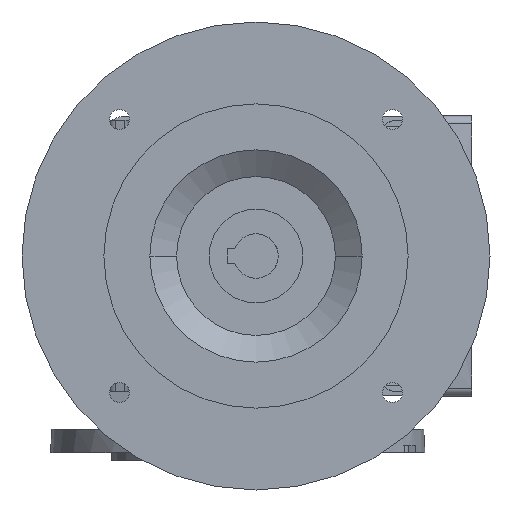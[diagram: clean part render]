
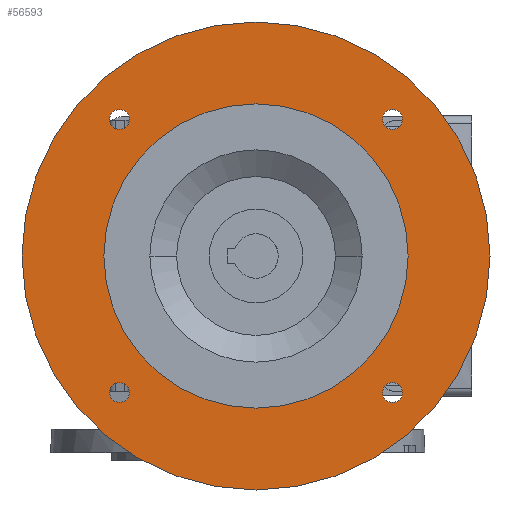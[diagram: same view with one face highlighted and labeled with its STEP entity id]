
A CAD part, left-side view. The second image highlights one B-rep face of the part: STEP entity #56593.
In plain terms, the highlighted planar face has unit normal (-1, 0, 0).
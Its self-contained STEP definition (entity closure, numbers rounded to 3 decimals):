
#56025=CARTESIAN_POINT('',(-124.5,79.,0.));
#56026=DIRECTION('',(1.,0.,0.));
#56027=DIRECTION('',(0.,-1.,0.));
#56028=AXIS2_PLACEMENT_3D('',#56025,#56026,#56027);
#56030=CARTESIAN_POINT('',(-124.5,79.,0.));
#56031=DIRECTION('',(1.,0.,0.));
#56032=DIRECTION('',(0.,1.,0.));
#56033=AXIS2_PLACEMENT_3D('',#56030,#56031,#56032);
#56035=CARTESIAN_POINT('',(-124.5,20.664,-58.336));
#56036=DIRECTION('',(-1.,0.,0.));
#56037=DIRECTION('',(0.,1.,0.));
#56038=AXIS2_PLACEMENT_3D('',#56035,#56036,#56037);
#56040=CARTESIAN_POINT('',(-124.5,20.664,-58.336));
#56041=DIRECTION('',(-1.,0.,0.));
#56042=DIRECTION('',(0.,-1.,0.));
#56043=AXIS2_PLACEMENT_3D('',#56040,#56041,#56042);
#56045=CARTESIAN_POINT('',(-124.5,137.336,-58.336));
#56046=DIRECTION('',(-1.,0.,0.));
#56047=DIRECTION('',(0.,1.,0.));
#56048=AXIS2_PLACEMENT_3D('',#56045,#56046,#56047);
#56050=CARTESIAN_POINT('',(-124.5,137.336,-58.336));
#56051=DIRECTION('',(-1.,0.,0.));
#56052=DIRECTION('',(0.,-1.,0.));
#56053=AXIS2_PLACEMENT_3D('',#56050,#56051,#56052);
#56055=CARTESIAN_POINT('',(-124.5,20.664,58.336));
#56056=DIRECTION('',(-1.,0.,0.));
#56057=DIRECTION('',(0.,1.,0.));
#56058=AXIS2_PLACEMENT_3D('',#56055,#56056,#56057);
#56060=CARTESIAN_POINT('',(-124.5,20.664,58.336));
#56061=DIRECTION('',(-1.,0.,0.));
#56062=DIRECTION('',(0.,-1.,0.));
#56063=AXIS2_PLACEMENT_3D('',#56060,#56061,#56062);
#56065=CARTESIAN_POINT('',(-124.5,137.336,58.336));
#56066=DIRECTION('',(-1.,0.,0.));
#56067=DIRECTION('',(0.,1.,0.));
#56068=AXIS2_PLACEMENT_3D('',#56065,#56066,#56067);
#56070=CARTESIAN_POINT('',(-124.5,137.336,58.336));
#56071=DIRECTION('',(-1.,0.,0.));
#56072=DIRECTION('',(0.,-1.,0.));
#56073=AXIS2_PLACEMENT_3D('',#56070,#56071,#56072);
#56075=CARTESIAN_POINT('',(-124.5,79.,0.));
#56076=DIRECTION('',(-1.,0.,0.));
#56077=DIRECTION('',(0.,-1.,0.));
#56078=AXIS2_PLACEMENT_3D('',#56075,#56076,#56077);
#56080=CARTESIAN_POINT('',(-124.5,79.,0.));
#56081=DIRECTION('',(-1.,0.,0.));
#56082=DIRECTION('',(0.,1.,0.));
#56083=AXIS2_PLACEMENT_3D('',#56080,#56081,#56082);
#56325=CARTESIAN_POINT('',(-124.5,24.914,-58.336));
#56326=CARTESIAN_POINT('',(-124.5,16.414,-58.336));
#56327=VERTEX_POINT('',#56325);
#56328=VERTEX_POINT('',#56326);
#56329=CARTESIAN_POINT('',(-124.5,-21.,0.));
#56330=CARTESIAN_POINT('',(-124.5,179.,0.));
#56331=VERTEX_POINT('',#56329);
#56332=VERTEX_POINT('',#56330);
#56333=CARTESIAN_POINT('',(-124.5,141.586,-58.336));
#56334=CARTESIAN_POINT('',(-124.5,133.086,-58.336));
#56335=VERTEX_POINT('',#56333);
#56336=VERTEX_POINT('',#56334);
#56337=CARTESIAN_POINT('',(-124.5,24.914,58.336));
#56338=CARTESIAN_POINT('',(-124.5,16.414,58.336));
#56339=VERTEX_POINT('',#56337);
#56340=VERTEX_POINT('',#56338);
#56341=CARTESIAN_POINT('',(-124.5,141.586,58.336));
#56342=CARTESIAN_POINT('',(-124.5,133.086,58.336));
#56343=VERTEX_POINT('',#56341);
#56344=VERTEX_POINT('',#56342);
#56345=CARTESIAN_POINT('',(-124.5,14.,0.));
#56346=CARTESIAN_POINT('',(-124.5,144.,0.));
#56347=VERTEX_POINT('',#56345);
#56348=VERTEX_POINT('',#56346);
#56554=CARTESIAN_POINT('',(-124.5,79.,0.));
#56555=DIRECTION('',(1.,0.,0.));
#56556=DIRECTION('',(0.,-1.,0.));
#56557=AXIS2_PLACEMENT_3D('',#56554,#56555,#56556);
#56558=PLANE('',#56557);
#56559=ORIENTED_EDGE('',*,*,#56533,.T.);
#56560=ORIENTED_EDGE('',*,*,#56549,.T.);
#56561=EDGE_LOOP('',(#56559,#56560));
#56562=FACE_OUTER_BOUND('',#56561,.F.);
#56564=ORIENTED_EDGE('',*,*,#56563,.T.);
#56566=ORIENTED_EDGE('',*,*,#56565,.T.);
#56567=EDGE_LOOP('',(#56564,#56566));
#56568=FACE_BOUND('',#56567,.F.);
#56570=ORIENTED_EDGE('',*,*,#56569,.T.);
#56572=ORIENTED_EDGE('',*,*,#56571,.T.);
#56573=EDGE_LOOP('',(#56570,#56572));
#56574=FACE_BOUND('',#56573,.F.);
#56576=ORIENTED_EDGE('',*,*,#56575,.T.);
#56578=ORIENTED_EDGE('',*,*,#56577,.T.);
#56579=EDGE_LOOP('',(#56576,#56578));
#56580=FACE_BOUND('',#56579,.F.);
#56582=ORIENTED_EDGE('',*,*,#56581,.T.);
#56584=ORIENTED_EDGE('',*,*,#56583,.T.);
#56585=EDGE_LOOP('',(#56582,#56584));
#56586=FACE_BOUND('',#56585,.F.);
#56588=ORIENTED_EDGE('',*,*,#56587,.T.);
#56590=ORIENTED_EDGE('',*,*,#56589,.T.);
#56591=EDGE_LOOP('',(#56588,#56590));
#56592=FACE_BOUND('',#56591,.F.);
#56593=ADVANCED_FACE('',(#56562,#56568,#56574,#56580,#56586,#56592),#56558,.F.);
#56029=CIRCLE('',#56028,100.);
#56034=CIRCLE('',#56033,100.);
#56039=CIRCLE('',#56038,4.25);
#56044=CIRCLE('',#56043,4.25);
#56049=CIRCLE('',#56048,4.25);
#56054=CIRCLE('',#56053,4.25);
#56059=CIRCLE('',#56058,4.25);
#56064=CIRCLE('',#56063,4.25);
#56069=CIRCLE('',#56068,4.25);
#56074=CIRCLE('',#56073,4.25);
#56079=CIRCLE('',#56078,65.);
#56084=CIRCLE('',#56083,65.);
#56533=EDGE_CURVE('',#56331,#56332,#56029,.T.);
#56549=EDGE_CURVE('',#56332,#56331,#56034,.T.);
#56563=EDGE_CURVE('',#56327,#56328,#56039,.T.);
#56565=EDGE_CURVE('',#56328,#56327,#56044,.T.);
#56569=EDGE_CURVE('',#56335,#56336,#56049,.T.);
#56571=EDGE_CURVE('',#56336,#56335,#56054,.T.);
#56575=EDGE_CURVE('',#56339,#56340,#56059,.T.);
#56577=EDGE_CURVE('',#56340,#56339,#56064,.T.);
#56581=EDGE_CURVE('',#56343,#56344,#56069,.T.);
#56583=EDGE_CURVE('',#56344,#56343,#56074,.T.);
#56587=EDGE_CURVE('',#56347,#56348,#56079,.T.);
#56589=EDGE_CURVE('',#56348,#56347,#56084,.T.);
